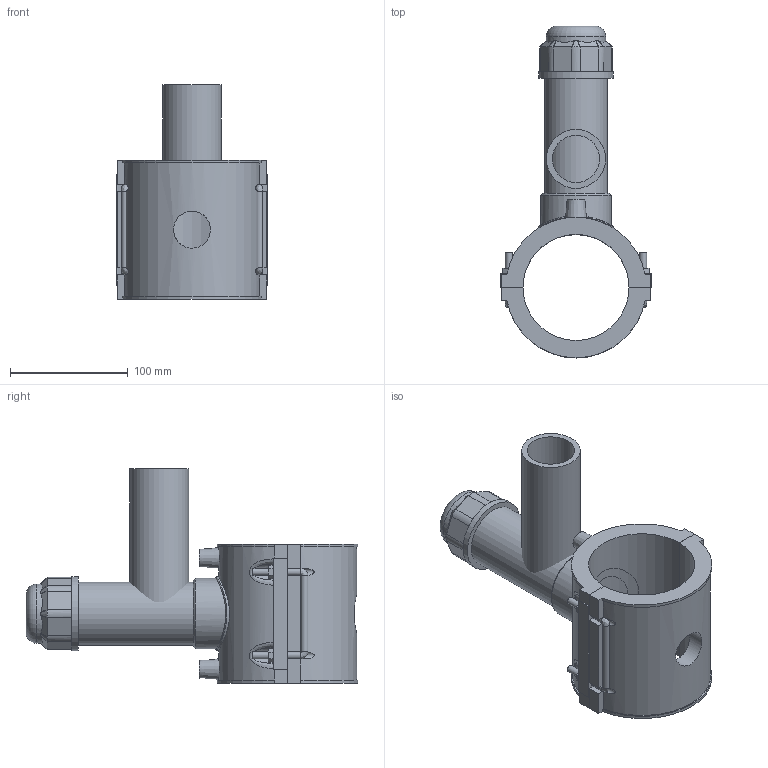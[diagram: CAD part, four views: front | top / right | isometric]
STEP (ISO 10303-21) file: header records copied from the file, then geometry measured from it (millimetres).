
FILE_DESCRIPTION(/* description */ (''),/* implementation_level */ '2;1');
FILE_NAME(/* name */ 'C:\Dropbox\KIMPROJECTS-Inventor 2019\99-16-3568-Processing\ElectroFusion Fittings\4963P4\stp\4963P4090050.stp',/* time_stamp */ '2022-03-17T11:27:14+02:00',/* author */ ('KIM'),/* organization */ (''),/* preprocessor_version */ 'ST-DEVELOPER v17.2',/* originating_system */ 'Autodesk Inventor 2019',/* authorisation */ '');
FILE_SCHEMA (('AUTOMOTIVE_DESIGN { 1 0 10303 214 3 1 1 }'));
Length unit declared in the file: millimetre
Products named in the file (1): 4963P4090050
Bounding box: 128 x 281.67 x 182 mm (x, y, z)
Volume: 869387.1 mm3; surface area: 198350.6 mm2
Topology: 3 solids, 3 shells, 218 faces, 559 edges, 360 vertices
Faces by surface type: plane 125, cylinder 52, bspline 25, cone 15, torus 1
Full cylindrical faces by diameter (mm): 4 x2, 6 x8, 10 x2, 31.36 x1, 40 x1, 44.1 x1, 50 x1, 50.4 x1, 53.55 x1, 59.85 x1, 63 x2
Entity records: 8081 total; most frequent: CARTESIAN_POINT 2817, ORIENTED_EDGE 1118, DIRECTION 1023, EDGE_CURVE 559, VERTEX_POINT 360, AXIS2_PLACEMENT_3D 351, LINE 321, VECTOR 321
